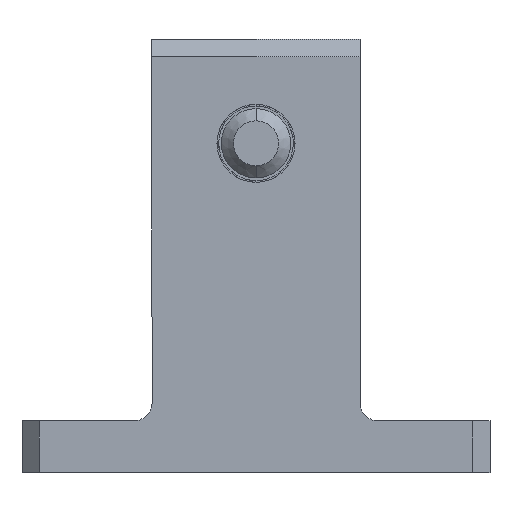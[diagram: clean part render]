
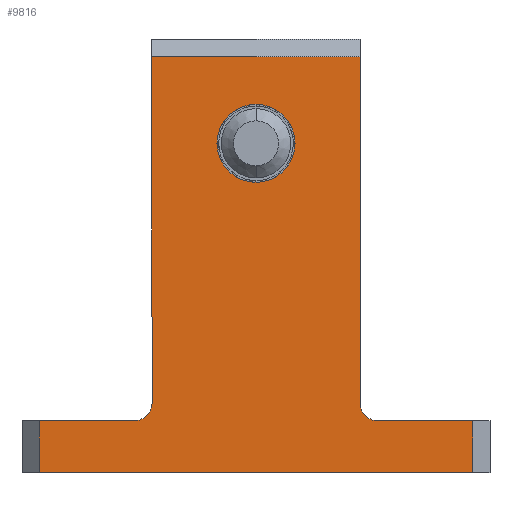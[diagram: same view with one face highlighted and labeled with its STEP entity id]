
A CAD part, front view. The second image highlights one B-rep face of the part: STEP entity #9816.
In plain terms, the highlighted planar face has unit normal (0, -1, 0).
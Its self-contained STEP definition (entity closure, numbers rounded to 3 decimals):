
#63 = EDGE_CURVE ( 'NONE', #567, #3310, #1068, .T. ) ;
#141 = CARTESIAN_POINT ( 'NONE',  ( -10.801, 21.708, 11.5 ) ) ;
#377 = CARTESIAN_POINT ( 'NONE',  ( -22.801, 21.708, -8.5 ) ) ;
#567 = VERTEX_POINT ( 'NONE', #2143 ) ;
#710 = DIRECTION ( 'NONE',  ( -1., 0., 0. ) ) ;
#933 = ORIENTED_EDGE ( 'NONE', *, *, #63, .F. ) ;
#1068 = CIRCLE ( 'NONE', #5516, 1. ) ;
#1126 = AXIS2_PLACEMENT_3D ( 'NONE', #11215, #9254, #11131 ) ;
#1184 = CARTESIAN_POINT ( 'NONE',  ( -9.801, 21.708, -9.5 ) ) ;
#1277 = ORIENTED_EDGE ( 'NONE', *, *, #6263, .T. ) ;
#1332 = LINE ( 'NONE', #8289, #8746 ) ;
#1644 = EDGE_CURVE ( 'NONE', #567, #1780, #5081, .T. ) ;
#1673 = EDGE_LOOP ( 'NONE', ( #4479, #5232 ) ) ;
#1681 = DIRECTION ( 'NONE',  ( 0., 0., -1. ) ) ;
#1771 = CARTESIAN_POINT ( 'NONE',  ( -23.801, 21.708, -9.5 ) ) ;
#1778 = CARTESIAN_POINT ( 'NONE',  ( -16.801, 21.708, 8.75 ) ) ;
#1780 = VERTEX_POINT ( 'NONE', #141 ) ;
#1806 = EDGE_CURVE ( 'NONE', #8708, #1780, #7792, .T. ) ;
#1990 = DIRECTION ( 'NONE',  ( 0., 0., 1. ) ) ;
#2002 = CARTESIAN_POINT ( 'NONE',  ( -22.801, 21.708, 11.5 ) ) ;
#2143 = CARTESIAN_POINT ( 'NONE',  ( -10.801, 21.708, -8.5 ) ) ;
#2157 = EDGE_CURVE ( 'NONE', #8180, #6100, #3447, .T. ) ;
#2188 = CARTESIAN_POINT ( 'NONE',  ( -4.301, 21.708, -9.5 ) ) ;
#2449 = EDGE_CURVE ( 'NONE', #11514, #3914, #4162, .T. ) ;
#2523 = PLANE ( 'NONE',  #7782 ) ;
#2636 = ORIENTED_EDGE ( 'NONE', *, *, #8084, .F. ) ;
#2703 = DIRECTION ( 'NONE',  ( 0., 0., 1. ) ) ;
#3110 = CARTESIAN_POINT ( 'NONE',  ( -27.051, 21.708, -9.5 ) ) ;
#3169 = EDGE_CURVE ( 'NONE', #8708, #8968, #9081, .T. ) ;
#3310 = VERTEX_POINT ( 'NONE', #1184 ) ;
#3392 = ORIENTED_EDGE ( 'NONE', *, *, #11149, .F. ) ;
#3447 = CIRCLE ( 'NONE', #4300, 2.25 ) ;
#3448 = CARTESIAN_POINT ( 'NONE',  ( -29.301, 21.708, -12.5 ) ) ;
#3504 = CARTESIAN_POINT ( 'NONE',  ( -16.801, 21.708, 6.5 ) ) ;
#3594 = DIRECTION ( 'NONE',  ( 0., 0., 1. ) ) ;
#3595 = ORIENTED_EDGE ( 'NONE', *, *, #1644, .T. ) ;
#3869 = EDGE_CURVE ( 'NONE', #6100, #8180, #7896, .T. ) ;
#3879 = DIRECTION ( 'NONE',  ( 0., 0., -1. ) ) ;
#3914 = VERTEX_POINT ( 'NONE', #6388 ) ;
#4077 = VERTEX_POINT ( 'NONE', #1771 ) ;
#4162 = LINE ( 'NONE', #7751, #4439 ) ;
#4300 = AXIS2_PLACEMENT_3D ( 'NONE', #3504, #10010, #5383 ) ;
#4439 = VECTOR ( 'NONE', #4942, 1000. ) ;
#4475 = CARTESIAN_POINT ( 'NONE',  ( -4.301, 21.708, -0.5 ) ) ;
#4479 = ORIENTED_EDGE ( 'NONE', *, *, #2157, .F. ) ;
#4768 = ORIENTED_EDGE ( 'NONE', *, *, #2449, .F. ) ;
#4788 = AXIS2_PLACEMENT_3D ( 'NONE', #10110, #10999, #3594 ) ;
#4942 = DIRECTION ( 'NONE',  ( -1., 0., 0. ) ) ;
#5010 = CARTESIAN_POINT ( 'NONE',  ( -29.301, 21.708, -9.5 ) ) ;
#5081 = LINE ( 'NONE', #8329, #9166 ) ;
#5092 = CARTESIAN_POINT ( 'NONE',  ( -16.801, 21.708, 4.25 ) ) ;
#5232 = ORIENTED_EDGE ( 'NONE', *, *, #3869, .F. ) ;
#5250 = DIRECTION ( 'NONE',  ( 0., 0., 1. ) ) ;
#5315 = CARTESIAN_POINT ( 'NONE',  ( -6.551, 21.708, -9.5 ) ) ;
#5341 = FACE_OUTER_BOUND ( 'NONE', #5968, .T. ) ;
#5359 = DIRECTION ( 'NONE',  ( 0., 1., 0. ) ) ;
#5383 = DIRECTION ( 'NONE',  ( 0., 0., 1. ) ) ;
#5491 = EDGE_CURVE ( 'NONE', #4077, #9730, #7551, .T. ) ;
#5516 = AXIS2_PLACEMENT_3D ( 'NONE', #6301, #5557, #1681 ) ;
#5557 = DIRECTION ( 'NONE',  ( 0., -1., 0. ) ) ;
#5968 = EDGE_LOOP ( 'NONE', ( #8606, #8737, #3392, #8517, #6993, #4768, #2636, #1277, #933, #3595 ) ) ;
#6020 = VERTEX_POINT ( 'NONE', #2188 ) ;
#6100 = VERTEX_POINT ( 'NONE', #5092 ) ;
#6219 = CIRCLE ( 'NONE', #1126, 1. ) ;
#6263 = EDGE_CURVE ( 'NONE', #6020, #3310, #7763, .T. ) ;
#6301 = CARTESIAN_POINT ( 'NONE',  ( -9.801, 21.708, -8.5 ) ) ;
#6388 = CARTESIAN_POINT ( 'NONE',  ( -29.301, 21.708, -12.5 ) ) ;
#6963 = CARTESIAN_POINT ( 'NONE',  ( -4.301, 21.708, -12.5 ) ) ;
#6993 = ORIENTED_EDGE ( 'NONE', *, *, #7516, .F. ) ;
#7110 = FACE_BOUND ( 'NONE', #1673, .T. ) ;
#7275 = DIRECTION ( 'NONE',  ( 0., 0., -1. ) ) ;
#7516 = EDGE_CURVE ( 'NONE', #3914, #9730, #1332, .T. ) ;
#7551 = LINE ( 'NONE', #3110, #10485 ) ;
#7751 = CARTESIAN_POINT ( 'NONE',  ( -16.801, 21.708, -12.5 ) ) ;
#7763 = LINE ( 'NONE', #5315, #9519 ) ;
#7782 = AXIS2_PLACEMENT_3D ( 'NONE', #3448, #5359, #5250 ) ;
#7792 = LINE ( 'NONE', #9530, #10000 ) ;
#7896 = CIRCLE ( 'NONE', #4788, 2.25 ) ;
#8084 = EDGE_CURVE ( 'NONE', #6020, #11514, #8582, .T. ) ;
#8180 = VERTEX_POINT ( 'NONE', #1778 ) ;
#8289 = CARTESIAN_POINT ( 'NONE',  ( -29.301, 21.708, -0.5 ) ) ;
#8329 = CARTESIAN_POINT ( 'NONE',  ( -10.801, 21.708, 2. ) ) ;
#8517 = ORIENTED_EDGE ( 'NONE', *, *, #5491, .T. ) ;
#8582 = LINE ( 'NONE', #4475, #10621 ) ;
#8606 = ORIENTED_EDGE ( 'NONE', *, *, #1806, .F. ) ;
#8708 = VERTEX_POINT ( 'NONE', #2002 ) ;
#8737 = ORIENTED_EDGE ( 'NONE', *, *, #3169, .T. ) ;
#8746 = VECTOR ( 'NONE', #2703, 1000. ) ;
#8968 = VERTEX_POINT ( 'NONE', #377 ) ;
#9081 = LINE ( 'NONE', #9533, #10105 ) ;
#9166 = VECTOR ( 'NONE', #1990, 1000. ) ;
#9254 = DIRECTION ( 'NONE',  ( 0., -1., 0. ) ) ;
#9519 = VECTOR ( 'NONE', #710, 1000. ) ;
#9530 = CARTESIAN_POINT ( 'NONE',  ( -16.801, 21.708, 11.5 ) ) ;
#9533 = CARTESIAN_POINT ( 'NONE',  ( -22.801, 21.708, 2. ) ) ;
#9730 = VERTEX_POINT ( 'NONE', #5010 ) ;
#9816 = ADVANCED_FACE ( 'NONE', ( #7110, #5341 ), #2523, .F. ) ;
#10000 = VECTOR ( 'NONE', #10393, 1000. ) ;
#10010 = DIRECTION ( 'NONE',  ( 0., -1., 0. ) ) ;
#10105 = VECTOR ( 'NONE', #3879, 1000. ) ;
#10110 = CARTESIAN_POINT ( 'NONE',  ( -16.801, 21.708, 6.5 ) ) ;
#10393 = DIRECTION ( 'NONE',  ( 1., 0., 0. ) ) ;
#10485 = VECTOR ( 'NONE', #11430, 1000. ) ;
#10621 = VECTOR ( 'NONE', #7275, 1000. ) ;
#10999 = DIRECTION ( 'NONE',  ( 0., -1., 0. ) ) ;
#11131 = DIRECTION ( 'NONE',  ( 0., 0., -1. ) ) ;
#11149 = EDGE_CURVE ( 'NONE', #4077, #8968, #6219, .T. ) ;
#11215 = CARTESIAN_POINT ( 'NONE',  ( -23.801, 21.708, -8.5 ) ) ;
#11430 = DIRECTION ( 'NONE',  ( -1., 0., 0. ) ) ;
#11514 = VERTEX_POINT ( 'NONE', #6963 ) ;
